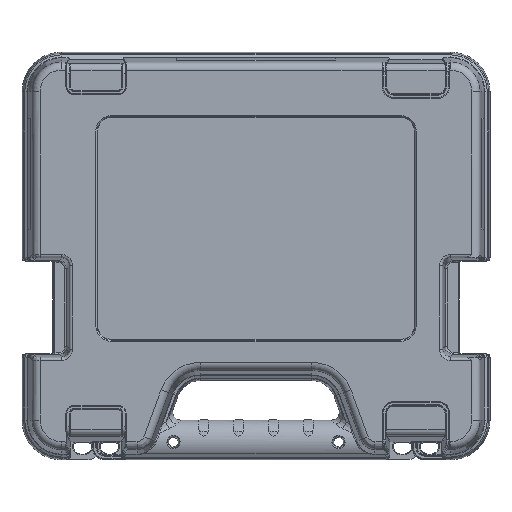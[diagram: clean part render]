
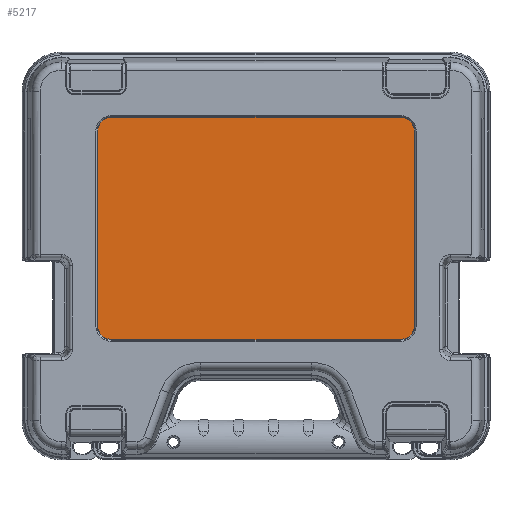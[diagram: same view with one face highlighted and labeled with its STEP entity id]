
A CAD part, top view. The second image highlights one B-rep face of the part: STEP entity #5217.
In plain terms, the highlighted planar face has unit normal (0, 0, 1).
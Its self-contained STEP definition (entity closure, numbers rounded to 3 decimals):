
#2467=PLANE('',#45769);
#5217=ADVANCED_FACE('',(#8804),#2467,.F.);
#8804=FACE_OUTER_BOUND('',#11472,.T.);
#11472=EDGE_LOOP('',(#22870,#22871,#22872,#22873,#22874,#22875,#22876,#22877));
#13660=CIRCLE('',#45765,8.793);
#13661=CIRCLE('',#45766,8.793);
#13662=CIRCLE('',#45767,8.793);
#13663=CIRCLE('',#45768,8.793);
#22870=ORIENTED_EDGE('',*,*,#36046,.T.);
#22871=ORIENTED_EDGE('',*,*,#36047,.T.);
#22872=ORIENTED_EDGE('',*,*,#36048,.T.);
#22873=ORIENTED_EDGE('',*,*,#36049,.T.);
#22874=ORIENTED_EDGE('',*,*,#36050,.T.);
#22875=ORIENTED_EDGE('',*,*,#36051,.T.);
#22876=ORIENTED_EDGE('',*,*,#36052,.T.);
#22877=ORIENTED_EDGE('',*,*,#36053,.T.);
#30888=VERTEX_POINT('',#81304);
#30889=VERTEX_POINT('',#81305);
#30890=VERTEX_POINT('',#81307);
#30891=VERTEX_POINT('',#81309);
#30892=VERTEX_POINT('',#81311);
#30893=VERTEX_POINT('',#81313);
#30894=VERTEX_POINT('',#81315);
#30895=VERTEX_POINT('',#81317);
#36046=EDGE_CURVE('',#30888,#30889,#39994,.T.);
#36047=EDGE_CURVE('',#30889,#30890,#13660,.T.);
#36048=EDGE_CURVE('',#30890,#30891,#39995,.T.);
#36049=EDGE_CURVE('',#30891,#30892,#13661,.T.);
#36050=EDGE_CURVE('',#30892,#30893,#39996,.T.);
#36051=EDGE_CURVE('',#30893,#30894,#13662,.T.);
#36052=EDGE_CURVE('',#30894,#30895,#39997,.T.);
#36053=EDGE_CURVE('',#30895,#30888,#13663,.T.);
#39994=LINE('',#81303,#42384);
#39995=LINE('',#81308,#42385);
#39996=LINE('',#81312,#42386);
#39997=LINE('',#81316,#42387);
#42384=VECTOR('',#54639,1.);
#42385=VECTOR('',#54642,1.);
#42386=VECTOR('',#54645,1.);
#42387=VECTOR('',#54648,1.);
#45765=AXIS2_PLACEMENT_3D('',#81306,#54640,#54641);
#45766=AXIS2_PLACEMENT_3D('',#81310,#54643,#54644);
#45767=AXIS2_PLACEMENT_3D('',#81314,#54646,#54647);
#45768=AXIS2_PLACEMENT_3D('',#81318,#54649,#54650);
#45769=AXIS2_PLACEMENT_3D('',#81319,#54651,#54652);
#54639=DIRECTION('',(-1.,0.,0.));
#54640=DIRECTION('',(0.,0.,1.));
#54641=DIRECTION('',(1.,0.,0.));
#54642=DIRECTION('',(0.,-1.,0.));
#54643=DIRECTION('',(0.,0.,1.));
#54644=DIRECTION('',(1.,0.,0.));
#54645=DIRECTION('',(1.,0.,0.));
#54646=DIRECTION('',(0.,0.,1.));
#54647=DIRECTION('',(-1.,0.,0.));
#54648=DIRECTION('',(0.,1.,0.));
#54649=DIRECTION('',(0.,0.,1.));
#54650=DIRECTION('',(-1.,0.,0.));
#54651=DIRECTION('',(0.,0.,-1.));
#54652=DIRECTION('',(-1.,0.,0.));
#81303=CARTESIAN_POINT('',(0.,-45.207,45.25));
#81304=CARTESIAN_POINT('',(91.,-45.207,45.25));
#81305=CARTESIAN_POINT('',(-91.,-45.207,45.25));
#81306=CARTESIAN_POINT('',(-91.,-54.,45.25));
#81307=CARTESIAN_POINT('',(-99.793,-54.,45.25));
#81308=CARTESIAN_POINT('',(-99.793,0.,45.25));
#81309=CARTESIAN_POINT('',(-99.793,-176.42,45.25));
#81310=CARTESIAN_POINT('',(-91.,-176.42,45.25));
#81311=CARTESIAN_POINT('',(-91.,-185.213,45.25));
#81312=CARTESIAN_POINT('',(0.,-185.213,45.25));
#81313=CARTESIAN_POINT('',(91.,-185.213,45.25));
#81314=CARTESIAN_POINT('',(91.,-176.42,45.25));
#81315=CARTESIAN_POINT('',(99.793,-176.42,45.25));
#81316=CARTESIAN_POINT('',(99.793,0.,45.25));
#81317=CARTESIAN_POINT('',(99.793,-54.,45.25));
#81318=CARTESIAN_POINT('',(91.,-54.,45.25));
#81319=CARTESIAN_POINT('',(0.,0.,45.25));
